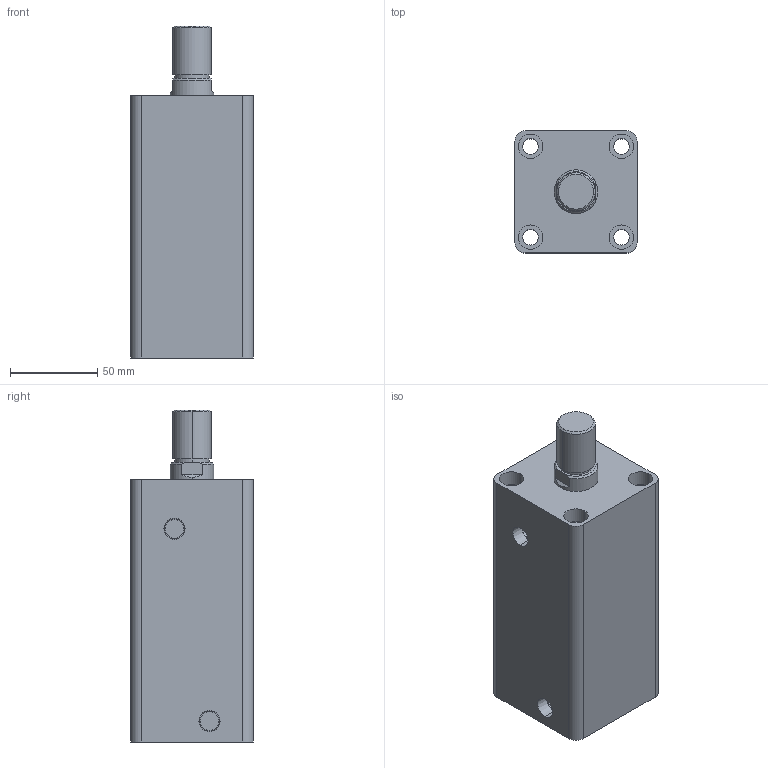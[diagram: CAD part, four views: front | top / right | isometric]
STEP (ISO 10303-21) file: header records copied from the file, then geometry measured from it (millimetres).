
FILE_DESCRIPTION (( 'STEP AP203' ), '1' );
FILE_NAME ('HTB-SD40-95W.STEP', '2019-10-07T06:58:18', ( '微软用户' ), ( '微软中国' ), 'SwSTEP 2.0', 'SolidWorks 2012', '' );
FILE_SCHEMA (( 'CONFIG_CONTROL_DESIGN' ));
Length unit declared in the file: millimetre
Products named in the file (3): HTB-SD40-95W活塞杆; HTB-SD40-95掛极; HTB-SD40-95W
Assembly tree (2 placements, depth 2):
  HTB-SD40-95W
    HTB-SD40-95掛极
    HTB-SD40-95W活塞杆
Bounding box: 70 x 70 x 190 mm (x, y, z)
Volume: 626926 mm3; surface area: 103492.9 mm2
Topology: 2 solids, 2 shells, 85 faces, 186 edges, 122 vertices
Faces by surface type: cylinder 44, plane 29, cone 8, torus 4
Entity records: 2709 total; most frequent: DIRECTION 466, CARTESIAN_POINT 426, ORIENTED_EDGE 372, AXIS2_PLACEMENT_3D 198, EDGE_CURVE 186, VERTEX_POINT 122, EDGE_LOOP 110, CIRCLE 108
